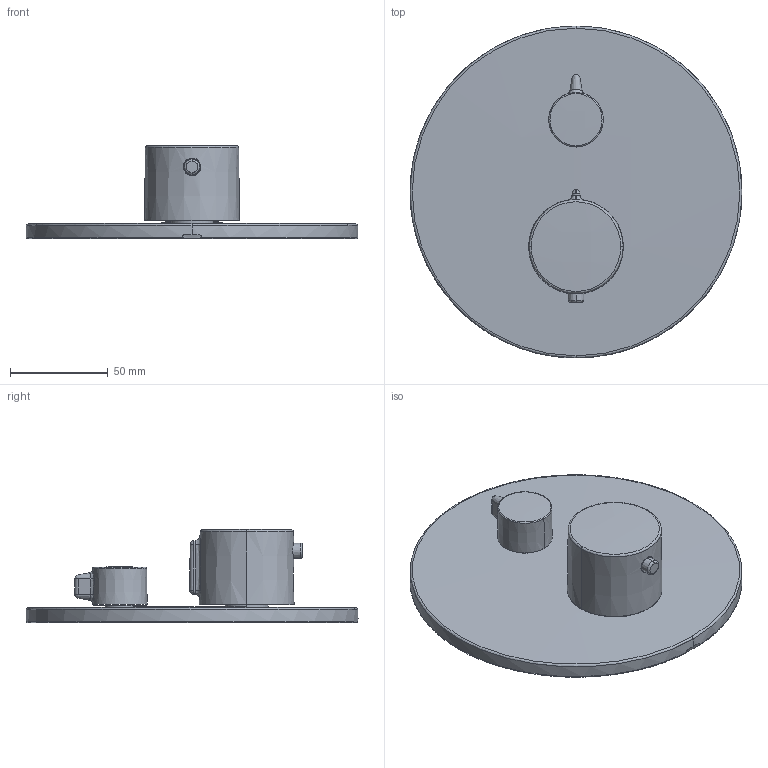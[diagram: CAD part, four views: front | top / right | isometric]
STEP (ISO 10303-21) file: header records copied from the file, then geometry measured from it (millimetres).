
FILE_DESCRIPTION (( 'STEP AP203' ), '1' );
FILE_NAME ('88629245(2025)+2078N(2025).STEP', '2025-06-25T06:58:36', ( '' ), ( '' ), 'SwSTEP 2.0', 'SolidWorks 2024', '' );
FILE_SCHEMA (( 'CONFIG_CONTROL_DESIGN' ));
Length unit declared in the file: millimetre
Products named in the file (1): 88629245(2025)+2078N(2025)
Bounding box: 169.9 x 169.93 x 47.61 mm (x, y, z)
Volume: 259297.1 mm3; surface area: 60764.3 mm2
Topology: 1 solids, 1 shells, 78 faces, 184 edges, 104 vertices
Faces by surface type: bspline 54, cone 13, plane 7, cylinder 4
Entity records: 4346 total; most frequent: CARTESIAN_POINT 2860, ORIENTED_EDGE 346, DIRECTION 218, EDGE_CURVE 173, VERTEX_POINT 104, AXIS2_PLACEMENT_3D 96, EDGE_LOOP 85, FACE_OUTER_BOUND 78
